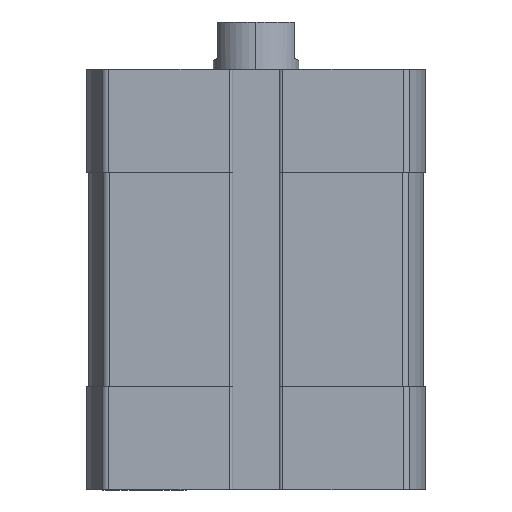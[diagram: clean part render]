
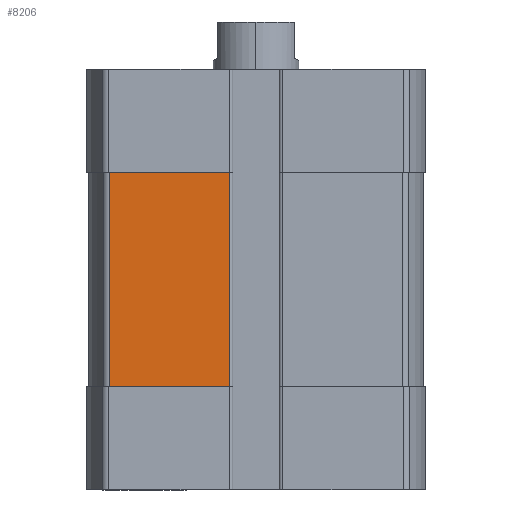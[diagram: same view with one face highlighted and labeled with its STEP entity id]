
A CAD part, left-side view. The second image highlights one B-rep face of the part: STEP entity #8206.
In plain terms, the highlighted planar face has unit normal (-1, 0, 0).
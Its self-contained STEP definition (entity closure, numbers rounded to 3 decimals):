
#161 = ORIENTED_EDGE ( 'NONE', *, *, #993, .T. ) ;
#580 = DIRECTION ( 'NONE',  ( 0., 0., 1. ) ) ;
#689 = VERTEX_POINT ( 'NONE', #8971 ) ;
#904 = EDGE_CURVE ( 'NONE', #689, #7920, #2229, .T. ) ;
#993 = EDGE_CURVE ( 'NONE', #4787, #689, #11479, .T. ) ;
#1128 = PLANE ( 'NONE',  #12895 ) ;
#1289 = ORIENTED_EDGE ( 'NONE', *, *, #5449, .T. ) ;
#1377 = CARTESIAN_POINT ( 'NONE',  ( -19.5, 17.091, -37. ) ) ;
#1604 = VECTOR ( 'NONE', #6320, 1000. ) ;
#1756 = VERTEX_POINT ( 'NONE', #6716 ) ;
#1969 = LINE ( 'NONE', #2635, #9795 ) ;
#2229 = LINE ( 'NONE', #3248, #1604 ) ;
#2287 = VECTOR ( 'NONE', #5196, 1000. ) ;
#2635 = CARTESIAN_POINT ( 'NONE',  ( -19.5, 3.1, -37. ) ) ;
#3248 = CARTESIAN_POINT ( 'NONE',  ( -19.5, 17.091, -37. ) ) ;
#3351 = VECTOR ( 'NONE', #11230, 1000. ) ;
#4183 = DIRECTION ( 'NONE',  ( -1., 0., 0. ) ) ;
#4598 = CARTESIAN_POINT ( 'NONE',  ( -19.5, 3.1, -37. ) ) ;
#4774 = ORIENTED_EDGE ( 'NONE', *, *, #904, .T. ) ;
#4787 = VERTEX_POINT ( 'NONE', #10853 ) ;
#5196 = DIRECTION ( 'NONE',  ( 0., 1., 0. ) ) ;
#5449 = EDGE_CURVE ( 'NONE', #1756, #4787, #8052, .T. ) ;
#6320 = DIRECTION ( 'NONE',  ( 0., -1., 0. ) ) ;
#6339 = FACE_OUTER_BOUND ( 'NONE', #10771, .T. ) ;
#6716 = CARTESIAN_POINT ( 'NONE',  ( -19.5, 3.1, -12. ) ) ;
#7920 = VERTEX_POINT ( 'NONE', #4598 ) ;
#8052 = LINE ( 'NONE', #8238, #2287 ) ;
#8206 = ADVANCED_FACE ( 'NONE', ( #6339 ), #1128, .T. ) ;
#8238 = CARTESIAN_POINT ( 'NONE',  ( -19.5, 0., -12. ) ) ;
#8971 = CARTESIAN_POINT ( 'NONE',  ( -19.5, 17.091, -37. ) ) ;
#9795 = VECTOR ( 'NONE', #580, 1000. ) ;
#10300 = CARTESIAN_POINT ( 'NONE',  ( -19.5, 17.091, -37. ) ) ;
#10771 = EDGE_LOOP ( 'NONE', ( #4774, #12489, #1289, #161 ) ) ;
#10853 = CARTESIAN_POINT ( 'NONE',  ( -19.5, 17.091, -12. ) ) ;
#11165 = EDGE_CURVE ( 'NONE', #7920, #1756, #1969, .T. ) ;
#11230 = DIRECTION ( 'NONE',  ( 0., 0., -1. ) ) ;
#11323 = DIRECTION ( 'NONE',  ( 0., 0., 1. ) ) ;
#11479 = LINE ( 'NONE', #1377, #3351 ) ;
#12489 = ORIENTED_EDGE ( 'NONE', *, *, #11165, .T. ) ;
#12895 = AXIS2_PLACEMENT_3D ( 'NONE', #10300, #4183, #11323 ) ;
